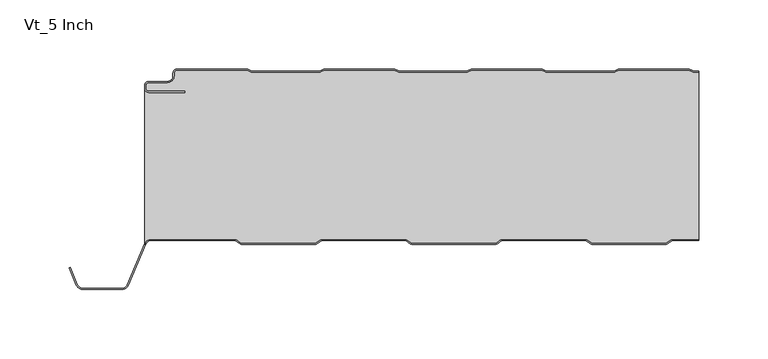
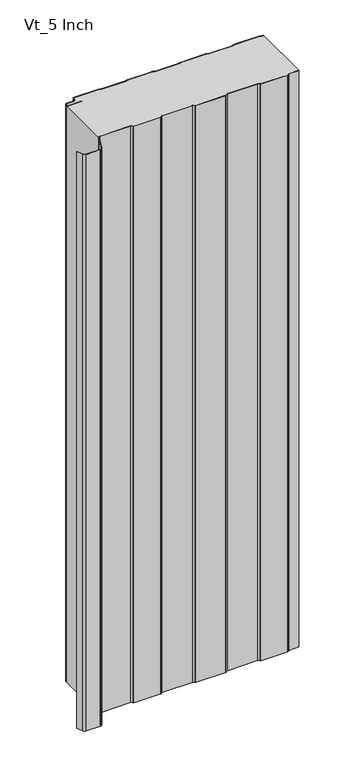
"""IFC4 building model written with IfcOpenShell, lengths in millimetres: plate geometry, AWIP_R18_CP_HR3_Vt_Roof Panel : Vt_5 Inch."""

from ifc_helpers import new_model, si_unit, point, frame, frame_2d, origin, origin_with_axes, place, context, project, spatial, polyline, circle_curve, trimmed, segment, composite_curve, outline, extrude, source, transform, mapped, element, save
from ifc_brep_helpers import plane_surface, cylinder_surface, revolved_surface, advanced_brep


def vt_5_inch_8c37b09e(model_context):
    return source(origin(), model_context, "Body", "SolidModel", [
        extrude(outline(composite_curve([segment(polyline([(212.4037368, -1.5), (215.9042607, -1.5), (215.9042607, -2.3), (212.4037368, -2.3)]), True, "CONTINUOUS"), segment(trimmed(circle_curve(frame_2d((212.4037368, 1.0)), 3.3), [point((212.4037368, -2.3))], [point((211.0949824, -2.0293831))], False, "CARTESIAN"), True, "CONTINUOUS"), segment(polyline([(211.0949824, -2.0293831), (208.7048832, -0.9968123)]), True, "CONTINUOUS"), segment(trimmed(circle_curve(frame_2d((207.7530619, -3.2)), 2.4), [point((208.7048832, -0.9968123))], [point((207.7530619, -0.8))], True, "CARTESIAN"), True, "CONTINUOUS"), segment(polyline([(207.7530619, -0.8), (158.8384168, -0.8)]), True, "CONTINUOUS"), segment(trimmed(circle_curve(frame_2d((158.8384168, -3.2)), 2.4), [point((158.8384168, -0.8))], [point((157.8865954, -0.9968123))], True, "CARTESIAN"), True, "CONTINUOUS"), segment(polyline([(157.8865954, -0.9968123), (155.4964962, -2.0293831)]), True, "CONTINUOUS"), segment(trimmed(circle_curve(frame_2d((154.1877419, 1.0)), 3.3), [point((155.4964962, -2.0293831))], [point((154.1877419, -2.3))], False, "CARTESIAN"), True, "CONTINUOUS"), segment(polyline([(154.1877419, -2.3), (105.8037368, -2.3)]), True, "CONTINUOUS"), segment(trimmed(circle_curve(frame_2d((105.8037368, 1.0)), 3.3), [point((105.8037368, -2.3))], [point((104.4949824, -2.0293831))], False, "CARTESIAN"), True, "CONTINUOUS"), segment(polyline([(104.4949824, -2.0293831), (102.1048832, -0.9968123)]), True, "CONTINUOUS"), segment(trimmed(circle_curve(frame_2d((101.1530619, -3.2)), 2.4), [point((102.1048832, -0.9968123))], [point((101.1530619, -0.8))], True, "CARTESIAN"), True, "CONTINUOUS"), segment(polyline([(101.1530619, -0.8), (52.2384168, -0.8)]), True, "CONTINUOUS"), segment(trimmed(circle_curve(frame_2d((52.2384168, -3.2)), 2.4), [point((52.2384168, -0.8))], [point((51.2865954, -0.9968123))], True, "CARTESIAN"), True, "CONTINUOUS"), segment(polyline([(51.2865954, -0.9968123), (48.8964962, -2.0293831)]), True, "CONTINUOUS"), segment(trimmed(circle_curve(frame_2d((47.5877419, 1.0)), 3.3), [point((48.8964962, -2.0293831))], [point((47.5877419, -2.3))], False, "CARTESIAN"), True, "CONTINUOUS"), segment(polyline([(47.5877419, -2.3), (-0.7962632, -2.3)]), True, "CONTINUOUS"), segment(trimmed(circle_curve(frame_2d((-0.7962632, 1.0)), 3.3), [point((-0.7962632, -2.3))], [point((-2.1050176, -2.0293831))], False, "CARTESIAN"), True, "CONTINUOUS"), segment(polyline([(-2.1050176, -2.0293831), (-4.4951168, -0.9968123)]), True, "CONTINUOUS"), segment(trimmed(circle_curve(frame_2d((-5.4469381, -3.2)), 2.4), [point((-4.4951168, -0.9968123))], [point((-5.4469381, -0.8))], True, "CARTESIAN"), True, "CONTINUOUS"), segment(polyline([(-5.4469381, -0.8), (-54.3615832, -0.8)]), True, "CONTINUOUS"), segment(trimmed(circle_curve(frame_2d((-54.3615832, -3.2)), 2.4), [point((-54.3615832, -0.8))], [point((-55.3134046, -0.9968123))], True, "CARTESIAN"), True, "CONTINUOUS"), segment(polyline([(-55.3134046, -0.9968123), (-57.7035038, -2.0293831)]), True, "CONTINUOUS"), segment(trimmed(circle_curve(frame_2d((-59.0122581, 1.0)), 3.3), [point((-57.7035038, -2.0293831))], [point((-59.0122581, -2.3))], False, "CARTESIAN"), True, "CONTINUOUS"), segment(polyline([(-59.0122581, -2.3), (-107.3962632, -2.3)]), True, "CONTINUOUS"), segment(trimmed(circle_curve(frame_2d((-107.3962632, 1.0)), 3.3), [point((-107.3962632, -2.3))], [point((-108.7050176, -2.0293831))], False, "CARTESIAN"), True, "CONTINUOUS"), segment(polyline([(-108.7050176, -2.0293831), (-111.0951168, -0.9968123)]), True, "CONTINUOUS"), segment(trimmed(circle_curve(frame_2d((-112.0469381, -3.2)), 2.4), [point((-111.0951168, -0.9968123))], [point((-112.0469381, -0.8))], True, "CARTESIAN"), True, "CONTINUOUS"), segment(polyline([(-112.0469381, -0.8), (-161.8042607, -0.8)]), True, "CONTINUOUS"), segment(trimmed(circle_curve(frame_2d((-161.8042607, -3.0)), 2.2), [point((-161.8042607, -0.8))], [point((-164.0042607, -3.0))], True, "CARTESIAN"), True, "CONTINUOUS"), segment(polyline([(-164.0042607, -3.0), (-164.0042607, -5.0)]), True, "CONTINUOUS"), segment(trimmed(circle_curve(frame_2d((-168.8042607, -5.0)), 4.8), [point((-164.0042607, -5.0))], [point((-168.8042607, -9.8))], False, "CARTESIAN"), True, "CONTINUOUS"), segment(polyline([(-168.8042607, -9.8), (-182.3200708, -9.8)]), True, "CONTINUOUS"), segment(trimmed(circle_curve(frame_2d((-182.3200708, -12.0)), 2.2), [point((-182.3200708, -9.8))], [point((-184.5200708, -12.0))], True, "CARTESIAN"), True, "CONTINUOUS"), segment(polyline([(-184.5200708, -12.0), (-184.5200708, -14.0)]), True, "CONTINUOUS"), segment(trimmed(circle_curve(frame_2d((-182.3200708, -14.0)), 2.2), [point((-184.5200708, -14.0))], [point((-182.3200708, -16.2))], True, "CARTESIAN"), True, "CONTINUOUS"), segment(polyline([(-182.3200708, -16.2), (-156.3790289, -16.2), (-156.3790289, -17.0), (-182.3200708, -17.0)]), True, "CONTINUOUS"), segment(trimmed(circle_curve(frame_2d((-182.3200708, -14.0)), 3.0), [point((-182.3200708, -17.0))], [point((-185.3200708, -14.0))], False, "CARTESIAN"), True, "CONTINUOUS"), segment(polyline([(-185.3200708, -14.0), (-185.3200708, -12.0)]), True, "CONTINUOUS"), segment(trimmed(circle_curve(frame_2d((-182.3200708, -12.0)), 3.0), [point((-185.3200708, -12.0))], [point((-182.3200708, -9.0))], False, "CARTESIAN"), True, "CONTINUOUS"), segment(polyline([(-182.3200708, -9.0), (-168.8042607, -9.0)]), True, "CONTINUOUS"), segment(trimmed(circle_curve(frame_2d((-168.8042607, -5.0)), 4.0), [point((-168.8042607, -9.0))], [point((-164.8042607, -5.0))], True, "CARTESIAN"), True, "CONTINUOUS"), segment(polyline([(-164.8042607, -5.0), (-164.8042607, -3.0)]), True, "CONTINUOUS"), segment(trimmed(circle_curve(frame_2d((-161.8042607, -3.0)), 3.0), [point((-164.8042607, -3.0))], [point((-161.8042607, 0.0))], False, "CARTESIAN"), True, "CONTINUOUS"), segment(polyline([(-161.8042607, 0.0), (-112.0469381, 0.0)]), True, "CONTINUOUS"), segment(trimmed(circle_curve(frame_2d((-112.0469381, -3.2)), 3.2), [point((-112.0469381, 0.0))], [point((-110.777843, -0.2624164))], False, "CARTESIAN"), True, "CONTINUOUS"), segment(polyline([(-110.777843, -0.2624164), (-108.3877438, -1.2949872)]), True, "CONTINUOUS"), segment(trimmed(circle_curve(frame_2d((-107.3962632, 1.0)), 2.5), [point((-108.3877438, -1.2949872))], [point((-107.3962632, -1.5))], True, "CARTESIAN"), True, "CONTINUOUS"), segment(polyline([(-107.3962632, -1.5), (-59.0122581, -1.5)]), True, "CONTINUOUS"), segment(trimmed(circle_curve(frame_2d((-59.0122581, 1.0)), 2.5), [point((-59.0122581, -1.5))], [point((-58.0207775, -1.2949872))], True, "CARTESIAN"), True, "CONTINUOUS"), segment(polyline([(-58.0207775, -1.2949872), (-55.6306783, -0.2624164)]), True, "CONTINUOUS"), segment(trimmed(circle_curve(frame_2d((-54.3615832, -3.2)), 3.2), [point((-55.6306783, -0.2624164))], [point((-54.3615832, 0.0))], False, "CARTESIAN"), True, "CONTINUOUS"), segment(polyline([(-54.3615832, 0.0), (-5.4469381, 0.0)]), True, "CONTINUOUS"), segment(trimmed(circle_curve(frame_2d((-5.4469381, -3.2)), 3.2), [point((-5.4469381, 0.0))], [point((-4.177843, -0.2624164))], False, "CARTESIAN"), True, "CONTINUOUS"), segment(polyline([(-4.177843, -0.2624164), (-1.7877438, -1.2949872)]), True, "CONTINUOUS"), segment(trimmed(circle_curve(frame_2d((-0.7962632, 1.0)), 2.5), [point((-1.7877438, -1.2949872))], [point((-0.7962632, -1.5))], True, "CARTESIAN"), True, "CONTINUOUS"), segment(polyline([(-0.7962632, -1.5), (47.5877419, -1.5)]), True, "CONTINUOUS"), segment(trimmed(circle_curve(frame_2d((47.5877419, 1.0)), 2.5), [point((47.5877419, -1.5))], [point((48.5792225, -1.2949872))], True, "CARTESIAN"), True, "CONTINUOUS"), segment(polyline([(48.5792225, -1.2949872), (50.9693217, -0.2624164)]), True, "CONTINUOUS"), segment(trimmed(circle_curve(frame_2d((52.2384168, -3.2)), 3.2), [point((50.9693217, -0.2624164))], [point((52.2384168, 0.0))], False, "CARTESIAN"), True, "CONTINUOUS"), segment(polyline([(52.2384168, 0.0), (101.1530619, 0.0)]), True, "CONTINUOUS"), segment(trimmed(circle_curve(frame_2d((101.1530619, -3.2)), 3.2), [point((101.1530619, 0.0))], [point((102.422157, -0.2624164))], False, "CARTESIAN"), True, "CONTINUOUS"), segment(polyline([(102.422157, -0.2624164), (104.8122562, -1.2949872)]), True, "CONTINUOUS"), segment(trimmed(circle_curve(frame_2d((105.8037368, 1.0)), 2.5), [point((104.8122562, -1.2949872))], [point((105.8037368, -1.5))], True, "CARTESIAN"), True, "CONTINUOUS"), segment(polyline([(105.8037368, -1.5), (154.1877419, -1.5)]), True, "CONTINUOUS"), segment(trimmed(circle_curve(frame_2d((154.1877419, 1.0)), 2.5), [point((154.1877419, -1.5))], [point((155.1792225, -1.2949872))], True, "CARTESIAN"), True, "CONTINUOUS"), segment(polyline([(155.1792225, -1.2949872), (157.5693217, -0.2624164)]), True, "CONTINUOUS"), segment(trimmed(circle_curve(frame_2d((158.8384168, -3.2)), 3.2), [point((157.5693217, -0.2624164))], [point((158.8384168, 0.0))], False, "CARTESIAN"), True, "CONTINUOUS"), segment(polyline([(158.8384168, 0.0), (207.7530619, 0.0)]), True, "CONTINUOUS"), segment(trimmed(circle_curve(frame_2d((207.7530619, -3.2)), 3.2), [point((207.7530619, 0.0))], [point((209.022157, -0.2624164))], False, "CARTESIAN"), True, "CONTINUOUS"), segment(polyline([(209.022157, -0.2624164), (211.4122562, -1.2949872)]), True, "CONTINUOUS"), segment(trimmed(circle_curve(frame_2d((212.4037368, 1.0)), 2.5), [point((211.4122562, -1.2949872))], [point((212.4037368, -1.5))], True, "CARTESIAN"), True, "CONTINUOUS")], self_intersect=False)), origin_with_axes(), (0.0, 0.0, 1.0), 1219.2),
        advanced_brep(
        [(196.6223362, -123.4158806, 0.0), (215.9042607, -123.4158806, 0.0), (215.9042607, -123.4158806, 1219.2), (196.6223362, -123.4158806, 1219.2), (195.8609464, -123.6621797, 1219.2), (195.8609464, -123.6621797, 0.0), (192.3488119, -126.2000001, 1219.2), (192.3488119, -126.2000001, 0.0), (138.1459308, -126.2000001, 1219.2), (138.1459308, -126.2000001, 0.0), (134.6337968, -123.6621798, 1219.2), (134.6337968, -123.6621798, 0.0), (133.8724069, -123.4158806, 1219.2), (133.8724069, -123.4158806, 0.0), (73.3762764, -123.4158806, 1219.2), (73.3762764, -123.4158806, 0.0), (72.6148867, -123.6621797, 1219.2), (72.6148867, -123.6621797, 0.0), (69.1027521, -126.2000001, 1219.2), (69.1027521, -126.2000001, 0.0), (7.6420063, -126.2000001, 1219.2), (7.6420063, -126.2000001, 0.0), (4.1298717, -123.6621797, 1219.2), (4.1298717, -123.6621797, 0.0), (3.3684818, -123.4158805, 1219.2), (3.3684818, -123.4158805, 0.0), (-57.1276444, -123.4158805, 1219.2), (-57.1276444, -123.4158805, 0.0), (-57.8890342, -123.6621797, 1219.2), (-57.8890342, -123.6621797, 0.0), (-61.4011687, -126.2, 1219.2), (-61.4011687, -126.2, 0.0), (-115.604049, -126.2, 1219.2), (-115.604049, -126.2, 0.0), (-119.1161836, -123.6621797, 1219.2), (-119.1161836, -123.6621797, 0.0), (-119.8775734, -123.4158805, 1219.2), (-119.8775734, -123.4158805, 0.0), (-180.6614903, -123.4158805, 1219.2), (-180.6614903, -123.4158805, 0.0), (215.9042607, -2.3, 1219.2), (212.4037368, -2.3, 1219.2), (211.0949824, -2.0293831, 1219.2), (208.7048832, -0.9968123, 1219.2), (207.7530619, -0.8, 1219.2), (158.8384168, -0.8, 1219.2), (157.8865954, -0.9968123, 1219.2), (155.4964962, -2.0293831, 1219.2), (154.1877419, -2.3, 1219.2), (105.8037368, -2.3, 1219.2), (104.4949824, -2.0293831, 1219.2), (102.1048832, -0.9968123, 1219.2), (101.1530619, -0.8, 1219.2), (52.2384168, -0.8, 1219.2), (51.2865954, -0.9968123, 1219.2), (48.8964962, -2.0293831, 1219.2), (47.5877419, -2.3, 1219.2), (-0.7962632, -2.3, 1219.2), (-2.1050176, -2.0293831, 1219.2), (-4.4951168, -0.9968123, 1219.2), (-5.4469381, -0.8, 1219.2), (-54.3615832, -0.8, 1219.2), (-55.3134046, -0.9968123, 1219.2), (-57.7035038, -2.0293831, 1219.2), (-59.0122581, -2.3, 1219.2), (-107.3962632, -2.3, 1219.2), (-108.7050176, -2.0293831, 1219.2), (-111.0951168, -0.9968123, 1219.2), (-112.0469381, -0.8, 1219.2), (-161.8042607, -0.8, 1219.2), (-164.0042607, -3.0, 1219.2), (-164.0042607, -5.0, 1219.2), (-168.8042607, -9.8, 1219.2), (-182.3200708, -9.8, 1219.2), (-184.5200708, -12.0, 1219.2), (-184.5200708, -14.0, 1219.2), (-182.3200708, -16.2, 1219.2), (-156.3790289, -16.2, 1219.2), (-156.3790289, -17.0, 1219.2), (-182.3200708, -17.0, 1219.2), (-185.3200708, -14.0, 1219.2), (-185.3370174, -127.1298575, 1219.2), (212.4037368, -2.3, 0.0), (211.0949824, -2.0293831, 0.0), (-185.3370174, -127.1298575, 0.0), (102.1048832, -0.9968123, 0.0), (101.1530619, -0.8, 0.0), (104.4949824, -2.0293831, 0.0), (105.8037368, -2.3, 0.0), (154.1877419, -2.3, 0.0), (155.4964962, -2.0293831, 0.0), (157.8865954, -0.9968123, 0.0), (158.8384168, -0.8, 0.0), (207.7530619, -0.8, 0.0), (208.7048832, -0.9968123, 0.0), (-185.3370174, -14.0, 0.0), (-182.3200708, -17.0, 0.0), (-156.3790289, -17.0, 0.0), (-156.3790289, -16.2, 0.0), (-182.3200708, -16.2, 0.0), (-184.5200708, -14.0, 0.0), (-184.5200708, -12.0, 0.0), (-182.3200708, -9.8, 0.0), (-168.8042607, -9.8, 0.0), (-164.0042607, -5.0, 0.0), (-164.0042607, -3.0, 0.0), (-161.8042607, -0.8, 0.0), (-112.0469381, -0.8, 0.0), (-111.0951168, -0.9968123, 0.0), (-108.7050176, -2.0293831, 0.0), (-107.3962632, -2.3, 0.0), (-59.0122581, -2.3, 0.0), (-57.7035038, -2.0293831, 0.0), (-55.3134046, -0.9968123, 0.0), (-54.3615832, -0.8, 0.0), (-5.4469381, -0.8, 0.0), (-4.4951168, -0.9968123, 0.0), (-2.1050176, -2.0293831, 0.0), (-0.7962632, -2.3, 0.0), (47.5877419, -2.3, 0.0), (48.8964962, -2.0293831, 0.0), (51.2865954, -0.9968123, 0.0), (52.2384168, -0.8, 0.0), (215.9042607, -2.3, 0.0)],
        [
            (0, 1),
            (1, 2),
            (2, 3),
            (3, 0),
            (4, 5),
            (5, 0, circle_curve(frame((196.6223362, -124.7158806, 0.0), z_axis=(0.0, 0.0, -1.0), x_axis=(0.0, -1.0, 0.0)), 1.3)),
            (3, 4, circle_curve(frame((196.6223362, -124.7158806, 1219.2), z_axis=(0.0, 0.0, 1.0), x_axis=(0.0, -1.0, 0.0)), 1.3)),
            (6, 7),
            (7, 5),
            (4, 6),
            (8, 9),
            (9, 7),
            (6, 8),
            (10, 11),
            (11, 9),
            (8, 10),
            (12, 13),
            (13, 11, circle_curve(frame((133.8724069, -124.7158806, 0.0), z_axis=(0.0, 0.0, -1.0), x_axis=(0.0, -1.0, 0.0)), 1.3)),
            (10, 12, circle_curve(frame((133.8724069, -124.7158806, 1219.2), z_axis=(0.0, 0.0, 1.0), x_axis=(0.0, -1.0, 0.0)), 1.3)),
            (14, 15),
            (15, 13),
            (12, 14),
            (16, 17),
            (17, 15, circle_curve(frame((73.3762764, -124.7158804, 0.0), z_axis=(0.0, 0.0, -1.0), x_axis=(0.0, -1.0, 0.0)), 1.2999998)),
            (14, 16, circle_curve(frame((73.3762764, -124.7158804, 1219.2), z_axis=(0.0, 0.0, 1.0), x_axis=(0.0, -1.0, 0.0)), 1.2999998)),
            (18, 19),
            (19, 17),
            (16, 18),
            (20, 21),
            (21, 19),
            (18, 20),
            (22, 23),
            (23, 21),
            (20, 22),
            (24, 25),
            (25, 23, circle_curve(frame((3.3684818, -124.7158805, 0.0), z_axis=(0.0, 0.0, -1.0), x_axis=(0.0, -1.0, 0.0)), 1.3)),
            (22, 24, circle_curve(frame((3.3684818, -124.7158805, 1219.2), z_axis=(0.0, 0.0, 1.0), x_axis=(0.0, -1.0, 0.0)), 1.3)),
            (26, 27),
            (27, 25),
            (24, 26),
            (28, 29),
            (29, 27, circle_curve(frame((-57.1276444, -124.7158805, 0.0), z_axis=(0.0, 0.0, -1.0), x_axis=(0.0, -1.0, 0.0)), 1.3)),
            (26, 28, circle_curve(frame((-57.1276444, -124.7158805, 1219.2), z_axis=(0.0, 0.0, 1.0), x_axis=(0.0, -1.0, 0.0)), 1.3)),
            (30, 31),
            (31, 29),
            (28, 30),
            (32, 33),
            (33, 31),
            (30, 32),
            (34, 35),
            (35, 33),
            (32, 34),
            (36, 37),
            (37, 35, circle_curve(frame((-119.8775734, -124.7158805, 0.0), z_axis=(0.0, 0.0, -1.0), x_axis=(0.0, -1.0, 0.0)), 1.3)),
            (34, 36, circle_curve(frame((-119.8775734, -124.7158805, 1219.2), z_axis=(0.0, 0.0, 1.0), x_axis=(0.0, -1.0, 0.0)), 1.3)),
            (38, 39),
            (39, 37),
            (36, 38),
            (2, 40),
            (40, 41),
            (41, 42, circle_curve(frame((212.4037368, 1.0, 1219.2), z_axis=(0.0, 0.0, -1.0), x_axis=(0.0, -1.0, 0.0)), 3.3)),
            (42, 43),
            (43, 44, circle_curve(frame((207.7530619, -3.2, 1219.2), z_axis=(0.0, 0.0, 1.0), x_axis=(0.0, -1.0, 0.0)), 2.4)),
            (44, 45),
            (45, 46, circle_curve(frame((158.8384168, -3.2, 1219.2), z_axis=(0.0, 0.0, 1.0), x_axis=(0.0, -1.0, 0.0)), 2.4)),
            (46, 47),
            (47, 48, circle_curve(frame((154.1877419, 1.0, 1219.2), z_axis=(0.0, 0.0, -1.0), x_axis=(0.0, -1.0, 0.0)), 3.3)),
            (48, 49),
            (49, 50, circle_curve(frame((105.8037368, 1.0, 1219.2), z_axis=(0.0, 0.0, -1.0), x_axis=(0.0, -1.0, 0.0)), 3.3)),
            (50, 51),
            (51, 52, circle_curve(frame((101.1530619, -3.2, 1219.2), z_axis=(0.0, 0.0, 1.0), x_axis=(0.0, -1.0, 0.0)), 2.4)),
            (52, 53),
            (53, 54, circle_curve(frame((52.2384168, -3.2, 1219.2), z_axis=(0.0, 0.0, 1.0), x_axis=(0.0, -1.0, 0.0)), 2.4)),
            (54, 55),
            (55, 56, circle_curve(frame((47.5877419, 1.0, 1219.2), z_axis=(0.0, 0.0, -1.0), x_axis=(0.0, -1.0, 0.0)), 3.3)),
            (56, 57),
            (57, 58, circle_curve(frame((-0.7962632, 1.0, 1219.2), z_axis=(0.0, 0.0, -1.0), x_axis=(0.0, -1.0, 0.0)), 3.3)),
            (58, 59),
            (59, 60, circle_curve(frame((-5.4469381, -3.2, 1219.2), z_axis=(0.0, 0.0, 1.0), x_axis=(0.0, -1.0, 0.0)), 2.4)),
            (60, 61),
            (61, 62, circle_curve(frame((-54.3615832, -3.2, 1219.2), z_axis=(0.0, 0.0, 1.0), x_axis=(0.0, -1.0, 0.0)), 2.4)),
            (62, 63),
            (63, 64, circle_curve(frame((-59.0122581, 1.0, 1219.2), z_axis=(0.0, 0.0, -1.0), x_axis=(0.0, -1.0, 0.0)), 3.3)),
            (64, 65),
            (65, 66, circle_curve(frame((-107.3962632, 1.0, 1219.2), z_axis=(0.0, 0.0, -1.0), x_axis=(0.0, -1.0, 0.0)), 3.3)),
            (66, 67),
            (67, 68, circle_curve(frame((-112.0469381, -3.2, 1219.2), z_axis=(0.0, 0.0, 1.0), x_axis=(0.0, -1.0, 0.0)), 2.4)),
            (68, 69),
            (69, 70, circle_curve(frame((-161.8042607, -3.0, 1219.2), z_axis=(0.0, 0.0, 1.0), x_axis=(0.0, -1.0, 0.0)), 2.2)),
            (70, 71),
            (71, 72, circle_curve(frame((-168.8042607, -5.0, 1219.2), z_axis=(0.0, 0.0, -1.0), x_axis=(0.0, -1.0, 0.0)), 4.8)),
            (72, 73),
            (73, 74, circle_curve(frame((-182.3200708, -12.0, 1219.2), z_axis=(0.0, 0.0, 1.0), x_axis=(0.0, -1.0, 0.0)), 2.2)),
            (74, 75),
            (75, 76, circle_curve(frame((-182.3200708, -14.0, 1219.2), z_axis=(0.0, 0.0, 1.0), x_axis=(0.0, -1.0, 0.0)), 2.2)),
            (76, 77),
            (77, 78),
            (78, 79),
            (79, 80, circle_curve(frame((-182.3200708, -14.0, 1219.2), z_axis=(0.0, 0.0, -1.0), x_axis=(0.0, -1.0, 0.0)), 3.0)),
            (80, 81),
            (81, 38, circle_curve(frame((-180.6614903, -128.2158804, 1219.2), z_axis=(0.0, 0.0, -1.0), x_axis=(0.0, -1.0, 0.0)), 4.7999999)),
            (41, 82),
            (82, 83, circle_curve(frame((212.4037368, 1.0, 0.0), z_axis=(0.0, 0.0, -1.0), x_axis=(0.0, -1.0, 0.0)), 3.3)),
            (83, 42),
            (81, 84),
            (84, 39, circle_curve(frame((-180.6614903, -128.2158804, 0.0), z_axis=(0.0, 0.0, -1.0), x_axis=(0.0, -1.0, 0.0)), 4.7999999)),
            (51, 85),
            (85, 86, circle_curve(frame((101.1530619, -3.2, 0.0), z_axis=(0.0, 0.0, 1.0), x_axis=(0.0, -1.0, 0.0)), 2.4)),
            (86, 52),
            (50, 87),
            (87, 85),
            (49, 88),
            (88, 87, circle_curve(frame((105.8037368, 1.0, 0.0), z_axis=(0.0, 0.0, -1.0), x_axis=(0.0, -1.0, 0.0)), 3.3)),
            (48, 89),
            (89, 88),
            (47, 90),
            (90, 89, circle_curve(frame((154.1877419, 1.0, 0.0), z_axis=(0.0, 0.0, -1.0), x_axis=(0.0, -1.0, 0.0)), 3.3)),
            (46, 91),
            (91, 90),
            (45, 92),
            (92, 91, circle_curve(frame((158.8384168, -3.2, 0.0), z_axis=(0.0, 0.0, 1.0), x_axis=(0.0, -1.0, 0.0)), 2.4)),
            (44, 93),
            (93, 92),
            (43, 94),
            (94, 93, circle_curve(frame((207.7530619, -3.2, 0.0), z_axis=(0.0, 0.0, 1.0), x_axis=(0.0, -1.0, 0.0)), 2.4)),
            (83, 94),
            (84, 95),
            (95, 96, circle_curve(frame((-182.3200708, -14.0, 0.0), z_axis=(0.0, 0.0, 1.0), x_axis=(0.0, -1.0, 0.0)), 3.0)),
            (96, 97),
            (97, 98),
            (98, 99),
            (99, 100, circle_curve(frame((-182.3200708, -14.0, 0.0), z_axis=(0.0, 0.0, -1.0), x_axis=(0.0, -1.0, 0.0)), 2.2)),
            (100, 101),
            (101, 102, circle_curve(frame((-182.3200708, -12.0, 0.0), z_axis=(0.0, 0.0, -1.0), x_axis=(0.0, -1.0, 0.0)), 2.2)),
            (102, 103),
            (103, 104, circle_curve(frame((-168.8042607, -5.0, 0.0), z_axis=(0.0, 0.0, 1.0), x_axis=(0.0, -1.0, 0.0)), 4.8)),
            (104, 105),
            (105, 106, circle_curve(frame((-161.8042607, -3.0, 0.0), z_axis=(0.0, 0.0, -1.0), x_axis=(0.0, -1.0, 0.0)), 2.2)),
            (106, 107),
            (107, 108, circle_curve(frame((-112.0469381, -3.2, 0.0), z_axis=(0.0, 0.0, -1.0), x_axis=(0.0, -1.0, 0.0)), 2.4)),
            (108, 109),
            (109, 110, circle_curve(frame((-107.3962632, 1.0, 0.0), z_axis=(0.0, 0.0, 1.0), x_axis=(0.0, -1.0, 0.0)), 3.3)),
            (110, 111),
            (111, 112, circle_curve(frame((-59.0122581, 1.0, 0.0), z_axis=(0.0, 0.0, 1.0), x_axis=(0.0, -1.0, 0.0)), 3.3)),
            (112, 113),
            (113, 114, circle_curve(frame((-54.3615832, -3.2, 0.0), z_axis=(0.0, 0.0, -1.0), x_axis=(0.0, -1.0, 0.0)), 2.4)),
            (114, 115),
            (115, 116, circle_curve(frame((-5.4469381, -3.2, 0.0), z_axis=(0.0, 0.0, -1.0), x_axis=(0.0, -1.0, 0.0)), 2.4)),
            (116, 117),
            (117, 118, circle_curve(frame((-0.7962632, 1.0, 0.0), z_axis=(0.0, 0.0, 1.0), x_axis=(0.0, -1.0, 0.0)), 3.3)),
            (118, 119),
            (119, 120, circle_curve(frame((47.5877419, 1.0, 0.0), z_axis=(0.0, 0.0, 1.0), x_axis=(0.0, -1.0, 0.0)), 3.3)),
            (120, 121),
            (121, 122, circle_curve(frame((52.2384168, -3.2, 0.0), z_axis=(0.0, 0.0, -1.0), x_axis=(0.0, -1.0, 0.0)), 2.4)),
            (122, 86),
            (82, 123),
            (123, 1),
            (123, 40),
            (80, 95),
            (79, 96),
            (78, 97),
            (77, 98),
            (76, 99),
            (75, 100),
            (74, 101),
            (73, 102),
            (72, 103),
            (71, 104),
            (70, 105),
            (69, 106),
            (68, 107),
            (67, 108),
            (66, 109),
            (65, 110),
            (64, 111),
            (63, 112),
            (62, 113),
            (61, 114),
            (60, 115),
            (59, 116),
            (58, 117),
            (57, 118),
            (56, 119),
            (55, 120),
            (54, 121),
            (53, 122),
        ],
        [
            plane_surface(frame((257.1184818, -123.4158806, 1219.2), z_axis=(0.0, -1.0, 0.0), x_axis=(0.0, 0.0, -1.0))),
            revolved_surface(polyline([(196.6223362, -126.0158806, 0.0), (196.6223362, -126.0158806, 1219.2)]), (196.6223362, -124.7158806, 1219.2), (0.0, 0.0, -1.0)),
            plane_surface(frame((195.8609464, -123.6621797, 1219.2), z_axis=(0.5856844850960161, -0.8105391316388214, 0.0), x_axis=(0.0, 0.0, -1.0))),
            plane_surface(frame((192.3488119, -126.2000001, 1219.2), z_axis=(0.0, -1.0, 0.0), x_axis=(0.0, 0.0, -1.0))),
            plane_surface(frame((138.1459308, -126.2000001, 1219.2), z_axis=(-0.585684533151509, -0.8105390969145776, 0.0), x_axis=(0.0, 0.0, -1.0))),
            revolved_surface(polyline([(133.8724069, -126.0158806, 0.0), (133.8724069, -126.0158806, 1219.2)]), (133.8724069, -124.7158806, 1219.2), (0.0, 0.0, -1.0)),
            plane_surface(frame((133.8724069, -123.4158806, 1219.2), z_axis=(0.0, -1.0, 0.0), x_axis=(0.0, 0.0, -1.0))),
            revolved_surface(polyline([(73.3762764, -126.0158802, 0.0), (73.3762764, -126.0158802, 1219.2)]), (73.3762764, -124.7158804, 1219.2), (0.0, 0.0, -1.0)),
            plane_surface(frame((72.6148867, -123.6621797, 1219.2), z_axis=(0.5856844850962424, -0.8105391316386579, 0.0), x_axis=(0.0, 0.0, -1.0))),
            plane_surface(frame((69.1027521, -126.2000001, 1219.2), z_axis=(0.0, -1.0, 0.0), x_axis=(0.0, 0.0, -1.0))),
            plane_surface(frame((7.6420063, -126.2000001, 1219.2), z_axis=(-0.5856844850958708, -0.8105391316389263, 0.0), x_axis=(0.0, 0.0, -1.0))),
            revolved_surface(polyline([(3.3684818, -126.0158805, 0.0), (3.3684818, -126.0158805, 1219.2)]), (3.3684818, -124.7158805, 1219.2), (0.0, 0.0, -1.0)),
            plane_surface(frame((3.3684818, -123.4158805, 1219.2), z_axis=(0.0, -1.0, 0.0), x_axis=(0.0, 0.0, -1.0))),
            revolved_surface(polyline([(-57.1276444, -126.0158805, 0.0), (-57.1276444, -126.0158805, 1219.2)]), (-57.1276444, -124.7158805, 1219.2), (0.0, 0.0, -1.0)),
            plane_surface(frame((-57.8890342, -123.6621797, 1219.2), z_axis=(0.5856844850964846, -0.8105391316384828, 0.0), x_axis=(0.0, 0.0, -1.0))),
            plane_surface(frame((-61.4011687, -126.2, 1219.2), z_axis=(0.0, -1.0, 0.0), x_axis=(0.0, 0.0, -1.0))),
            plane_surface(frame((-115.604049, -126.2, 1219.2), z_axis=(-0.5856844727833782, -0.8105391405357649, 0.0), x_axis=(0.0, 0.0, -1.0))),
            revolved_surface(polyline([(-119.8775734, -126.0158805, 0.0), (-119.8775734, -126.0158805, 1219.2)]), (-119.8775734, -124.7158805, 1219.2), (0.0, 0.0, -1.0)),
            plane_surface(frame((-119.8775734, -123.4158805, 1219.2), z_axis=(0.0, -1.0, 0.0), x_axis=(0.0, 0.0, -1.0))),
            plane_surface(frame((292.0957393, -0.8, 1219.2), z_axis=(0.0, 0.0, 1.0), x_axis=(0.0, -1.0, 0.0))),
            revolved_surface(polyline([(212.4037368, -2.3, 0.0), (212.4037368, -2.3, 1219.2)]), (212.4037368, 1.0, 1219.2), (0.0, 0.0, -1.0)),
            revolved_surface(polyline([(-180.6614903, -133.0158803, 0.0), (-180.6614903, -133.0158803, 1219.2)]), (-180.6614903, -128.2158804, 1219.2), (0.0, 0.0, -1.0)),
            cylinder_surface(frame((101.1530619, -3.2, 1219.2), z_axis=(0.0, 0.0, 1.0), x_axis=(0.0, -1.0, 0.0)), 2.4),
            plane_surface(frame((102.1048832, -0.9968123, 1219.2), z_axis=(0.3965922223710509, 0.9179948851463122, 0.0), x_axis=(0.0, 0.0, -1.0))),
            revolved_surface(polyline([(105.8037368, -2.3, 0.0), (105.8037368, -2.3, 1219.2)]), (105.8037368, 1.0, 1219.2), (0.0, 0.0, -1.0)),
            plane_surface(frame((105.8037368, -2.3, 1219.2), z_axis=(0.0, 1.0, 0.0), x_axis=(0.0, 0.0, -1.0))),
            revolved_surface(polyline([(154.1877419, -2.3, 0.0), (154.1877419, -2.3, 1219.2)]), (154.1877419, 1.0, 1219.2), (0.0, 0.0, -1.0)),
            plane_surface(frame((155.4964962, -2.0293831, 1219.2), z_axis=(-0.39659222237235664, 0.9179948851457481, 0.0), x_axis=(0.0, 0.0, -1.0))),
            cylinder_surface(frame((158.8384168, -3.2, 1219.2), z_axis=(0.0, 0.0, 1.0), x_axis=(0.0, -1.0, 0.0)), 2.4),
            plane_surface(frame((158.8384168, -0.8, 1219.2), z_axis=(0.0, 1.0, 0.0), x_axis=(0.0, 0.0, -1.0))),
            cylinder_surface(frame((207.7530619, -3.2, 1219.2), z_axis=(0.0, 0.0, 1.0), x_axis=(0.0, -1.0, 0.0)), 2.4),
            plane_surface(frame((208.7048832, -0.9968123, 1219.2), z_axis=(0.39659222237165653, 0.9179948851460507, 0.0), x_axis=(0.0, 0.0, -1.0))),
            plane_surface(frame((292.0957393, -0.8, 0.0), z_axis=(0.0, 0.0, -1.0), x_axis=(0.0, -1.0, 0.0))),
            plane_surface(frame((215.9042607, -192.0, 1219.2), z_axis=(1.0, 0.0, 0.0), x_axis=(0.0, 0.0, -1.0))),
            plane_surface(frame((-185.3370174, -127.1298575, 1219.2), z_axis=(-1.0, 0.0, 0.0), x_axis=(0.0, 0.0, -1.0))),
            revolved_surface(polyline([(-182.3200708, -17.0, 0.0), (-182.3200708, -17.0, 1219.2)]), (-182.3200708, -14.0, 1219.2), (0.0, 0.0, -1.0)),
            plane_surface(frame((-182.3200708, -17.0, 1219.2), z_axis=(0.0, 1.0, 0.0), x_axis=(0.0, 0.0, -1.0))),
            plane_surface(frame((-156.3790289, -17.0, 1219.2), z_axis=(-1.0, 0.0, 0.0), x_axis=(0.0, 0.0, -1.0))),
            plane_surface(frame((-156.3790289, -16.2, 1219.2), z_axis=(0.0, -1.0, 0.0), x_axis=(0.0, 0.0, -1.0))),
            cylinder_surface(frame((-182.3200708, -14.0, 1219.2), z_axis=(0.0, 0.0, 1.0), x_axis=(0.0, -1.0, 0.0)), 2.2),
            plane_surface(frame((-184.5200708, -14.0, 1219.2), z_axis=(-1.0, 0.0, 0.0), x_axis=(0.0, 0.0, -1.0))),
            cylinder_surface(frame((-182.3200708, -12.0, 1219.2), z_axis=(0.0, 0.0, 1.0), x_axis=(0.0, -1.0, 0.0)), 2.2),
            plane_surface(frame((-182.3200708, -9.8, 1219.2), z_axis=(0.0, 1.0, 0.0), x_axis=(0.0, 0.0, -1.0))),
            revolved_surface(polyline([(-168.8042607, -9.8, 0.0), (-168.8042607, -9.8, 1219.2)]), (-168.8042607, -5.0, 1219.2), (0.0, 0.0, -1.0)),
            plane_surface(frame((-164.0042607, -5.0, 1219.2), z_axis=(-1.0, 0.0, 0.0), x_axis=(0.0, 0.0, -1.0))),
            cylinder_surface(frame((-161.8042607, -3.0, 1219.2), z_axis=(0.0, 0.0, 1.0), x_axis=(0.0, -1.0, 0.0)), 2.2),
            plane_surface(frame((-161.8042607, -0.8, 1219.2), z_axis=(0.0, 1.0, 0.0), x_axis=(0.0, 0.0, -1.0))),
            cylinder_surface(frame((-112.0469381, -3.2, 1219.2), z_axis=(0.0, 0.0, 1.0), x_axis=(0.0, -1.0, 0.0)), 2.4),
            plane_surface(frame((-111.0951168, -0.9968123, 1219.2), z_axis=(0.39659222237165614, 0.9179948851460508, 0.0), x_axis=(0.0, 0.0, -1.0))),
            revolved_surface(polyline([(-107.3962632, -2.3, 0.0), (-107.3962632, -2.3, 1219.2)]), (-107.3962632, 1.0, 1219.2), (0.0, 0.0, -1.0)),
            plane_surface(frame((-107.3962632, -2.3, 1219.2), z_axis=(0.0, 1.0, 0.0), x_axis=(0.0, 0.0, -1.0))),
            revolved_surface(polyline([(-59.0122581, -2.3, 0.0), (-59.0122581, -2.3, 1219.2)]), (-59.0122581, 1.0, 1219.2), (0.0, 0.0, -1.0)),
            plane_surface(frame((-57.7035038, -2.0293831, 1219.2), z_axis=(-0.396592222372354, 0.9179948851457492, 0.0), x_axis=(0.0, 0.0, -1.0))),
            cylinder_surface(frame((-54.3615832, -3.2, 1219.2), z_axis=(0.0, 0.0, 1.0), x_axis=(0.0, -1.0, 0.0)), 2.4),
            plane_surface(frame((-54.3615832, -0.8, 1219.2), z_axis=(0.0, 1.0, 0.0), x_axis=(0.0, 0.0, -1.0))),
            cylinder_surface(frame((-5.4469381, -3.2, 1219.2), z_axis=(0.0, 0.0, 1.0), x_axis=(0.0, -1.0, 0.0)), 2.4),
            plane_surface(frame((-4.4951168, -0.9968123, 1219.2), z_axis=(0.39659222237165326, 0.9179948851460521, 0.0), x_axis=(0.0, 0.0, -1.0))),
            revolved_surface(polyline([(-0.7962632, -2.3, 0.0), (-0.7962632, -2.3, 1219.2)]), (-0.7962632, 1.0, 1219.2), (0.0, 0.0, -1.0)),
            plane_surface(frame((-0.7962632, -2.3, 1219.2), z_axis=(0.0, 1.0, 0.0), x_axis=(0.0, 0.0, -1.0))),
            revolved_surface(polyline([(47.5877419, -2.3, 0.0), (47.5877419, -2.3, 1219.2)]), (47.5877419, 1.0, 1219.2), (0.0, 0.0, -1.0)),
            plane_surface(frame((48.8964962, -2.0293831, 1219.2), z_axis=(-0.39659222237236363, 0.9179948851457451, 0.0), x_axis=(0.0, 0.0, -1.0))),
            cylinder_surface(frame((52.2384168, -3.2, 1219.2), z_axis=(0.0, 0.0, 1.0), x_axis=(0.0, -1.0, 0.0)), 2.4),
            plane_surface(frame((52.2384168, -0.8, 1219.2), z_axis=(0.0, 1.0, 0.0), x_axis=(0.0, 0.0, -1.0))),
            plane_surface(frame((212.4037368, -2.3, 1219.2), z_axis=(0.0, 1.0, 0.0), x_axis=(0.0, 0.0, -1.0))),
        ],
        [
            (0, [[1, 2, 3, 4]]),
            (1, [[5, 6, -4, 7]]),
            (2, [[8, 9, -5, 10]]),
            (3, [[11, 12, -8, 13]]),
            (4, [[14, 15, -11, 16]]),
            (5, [[17, 18, -14, 19]]),
            (6, [[20, 21, -17, 22]]),
            (7, [[23, 24, -20, 25]]),
            (8, [[26, 27, -23, 28]]),
            (9, [[29, 30, -26, 31]]),
            (10, [[32, 33, -29, 34]]),
            (11, [[35, 36, -32, 37]]),
            (12, [[38, 39, -35, 40]]),
            (13, [[41, 42, -38, 43]]),
            (14, [[44, 45, -41, 46]]),
            (15, [[47, 48, -44, 49]]),
            (16, [[50, 51, -47, 52]]),
            (17, [[53, 54, -50, 55]]),
            (18, [[56, 57, -53, 58]]),
            (19, [[-58, -55, -52, -49, -46, -43, -40, -37, -34, -31, -28, -25, -22, -19, -16, -13, -10, -7, -3, 59, 60, 61, 62, 63, 64, 65, 66, 67, 68, 69, 70, 71, 72, 73, 74, 75, 76, 77, 78, 79, 80, 81, 82, 83, 84, 85, 86, 87, 88, 89, 90, 91, 92, 93, 94, 95, 96, 97, 98, 99, 100, 101]]),
            (20, [[102, 103, 104, -61]]),
            (21, [[105, 106, -56, -101]]),
            (22, [[107, 108, 109, -71]]),
            (23, [[110, 111, -107, -70]]),
            (24, [[112, 113, -110, -69]]),
            (25, [[114, 115, -112, -68]]),
            (26, [[116, 117, -114, -67]]),
            (27, [[118, 119, -116, -66]]),
            (28, [[120, 121, -118, -65]]),
            (29, [[122, 123, -120, -64]]),
            (30, [[124, 125, -122, -63]]),
            (31, [[-104, 126, -124, -62]]),
            (32, [[-106, 127, 128, 129, 130, 131, 132, 133, 134, 135, 136, 137, 138, 139, 140, 141, 142, 143, 144, 145, 146, 147, 148, 149, 150, 151, 152, 153, 154, 155, -108, -111, -113, -115, -117, -119, -121, -123, -125, -126, -103, 156, 157, -1, -6, -9, -12, -15, -18, -21, -24, -27, -30, -33, -36, -39, -42, -45, -48, -51, -54, -57]]),
            (33, [[-2, -157, 158, -59]]),
            (34, [[159, -127, -105, -100]]),
            (35, [[160, -128, -159, -99]]),
            (36, [[161, -129, -160, -98]]),
            (37, [[162, -130, -161, -97]]),
            (38, [[163, -131, -162, -96]]),
            (39, [[164, -132, -163, -95]]),
            (40, [[165, -133, -164, -94]]),
            (41, [[166, -134, -165, -93]]),
            (42, [[167, -135, -166, -92]]),
            (43, [[168, -136, -167, -91]]),
            (44, [[169, -137, -168, -90]]),
            (45, [[170, -138, -169, -89]]),
            (46, [[171, -139, -170, -88]]),
            (47, [[172, -140, -171, -87]]),
            (48, [[173, -141, -172, -86]]),
            (49, [[174, -142, -173, -85]]),
            (50, [[175, -143, -174, -84]]),
            (51, [[176, -144, -175, -83]]),
            (52, [[177, -145, -176, -82]]),
            (53, [[178, -146, -177, -81]]),
            (54, [[179, -147, -178, -80]]),
            (55, [[180, -148, -179, -79]]),
            (56, [[181, -149, -180, -78]]),
            (57, [[182, -150, -181, -77]]),
            (58, [[183, -151, -182, -76]]),
            (59, [[184, -152, -183, -75]]),
            (60, [[185, -153, -184, -74]]),
            (61, [[186, -154, -185, -73]]),
            (62, [[-109, -155, -186, -72]]),
            (63, [[-60, -158, -156, -102]]),
        ],
    ),
        extrude(outline(composite_curve([segment(polyline([(-119.1161836, -123.6621793), (-115.604049, -126.1999997), (-61.4011687, -126.1999997), (-57.8890342, -123.6621793)]), True, "CONTINUOUS"), segment(trimmed(circle_curve(frame_2d((-57.1276444, -124.7158802)), 1.3), [point((-57.8890342, -123.6621793))], [point((-57.1276444, -123.4158802))], False, "CARTESIAN"), True, "CONTINUOUS"), segment(polyline([(-57.1276444, -123.4158802), (3.3684818, -123.4158802)]), True, "CONTINUOUS"), segment(trimmed(circle_curve(frame_2d((3.3684818, -124.7158802)), 1.3), [point((3.3684818, -123.4158802))], [point((4.1298717, -123.6621793))], False, "CARTESIAN"), True, "CONTINUOUS"), segment(polyline([(4.1298717, -123.6621793), (7.6420063, -126.1999997), (69.1027521, -126.1999997), (72.6148867, -123.6621794)]), True, "CONTINUOUS"), segment(trimmed(circle_curve(frame_2d((73.3762764, -124.7158801)), 1.2999998), [point((72.6148867, -123.6621794))], [point((73.3762764, -123.4158803))], False, "CARTESIAN"), True, "CONTINUOUS"), segment(polyline([(73.3762764, -123.4158803), (133.8724069, -123.4158803)]), True, "CONTINUOUS"), segment(trimmed(circle_curve(frame_2d((133.8724069, -124.7158803)), 1.3), [point((133.8724069, -123.4158803))], [point((134.6337968, -123.6621795))], False, "CARTESIAN"), True, "CONTINUOUS"), segment(polyline([(134.6337968, -123.6621795), (138.1459308, -126.1999997), (192.3488119, -126.1999997), (195.8609464, -123.6621794)]), True, "CONTINUOUS"), segment(trimmed(circle_curve(frame_2d((196.6223362, -124.7158803)), 1.3), [point((195.8609464, -123.6621794))], [point((196.6223362, -123.4158803))], False, "CARTESIAN"), True, "CONTINUOUS"), segment(polyline([(196.6223362, -123.4158803), (215.9042607, -123.4158803), (215.9042607, -124.2158801), (196.4605931, -124.2158801), (193.0008983, -126.7158084)]), True, "CONTINUOUS"), segment(trimmed(circle_curve(frame_2d((192.1223715, -125.4999997)), 1.5), [point((193.0008983, -126.7158084))], [point((192.1223715, -126.9999997))], False, "CARTESIAN"), True, "CONTINUOUS"), segment(polyline([(192.1223715, -126.9999997), (138.3723716, -127.0)]), True, "CONTINUOUS"), segment(trimmed(circle_curve(frame_2d((138.3723716, -125.4999997)), 1.5000003), [point((138.3723716, -127.0))], [point((137.4938446, -126.7158086))], False, "CARTESIAN"), True, "CONTINUOUS"), segment(polyline([(137.4938446, -126.7158086), (134.03415, -124.2158803), (73.2145333, -124.2158803), (69.7548385, -126.7158084)]), True, "CONTINUOUS"), segment(trimmed(circle_curve(frame_2d((68.8763118, -125.4999997)), 1.5), [point((69.7548385, -126.7158084))], [point((68.8753404, -126.9999994))], False, "CARTESIAN"), True, "CONTINUOUS"), segment(polyline([(68.8753404, -126.9999994), (7.8684462, -126.9999994)]), True, "CONTINUOUS"), segment(trimmed(circle_curve(frame_2d((7.8684462, -125.4999994)), 1.5), [point((7.8684462, -126.9999994))], [point((6.9899195, -126.7158081))], False, "CARTESIAN"), True, "CONTINUOUS"), segment(polyline([(6.9899195, -126.7158081), (3.5302251, -124.2158803), (-57.2893875, -124.2158803), (-60.7490824, -126.7158084)]), True, "CONTINUOUS"), segment(trimmed(circle_curve(frame_2d((-61.6276091, -125.4999997)), 1.5), [point((-60.7490824, -126.7158084))], [point((-61.6285805, -126.9999994))], False, "CARTESIAN"), True, "CONTINUOUS"), segment(polyline([(-61.6285805, -126.9999994), (-115.3776091, -126.9999994)]), True, "CONTINUOUS"), segment(trimmed(circle_curve(frame_2d((-115.3776091, -125.4999994)), 1.4999999), [point((-115.3776091, -126.9999994))], [point((-116.2561357, -126.7158081))], False, "CARTESIAN"), True, "CONTINUOUS"), segment(polyline([(-116.2561357, -126.7158081), (-119.7158301, -124.2158804), (-180.6614903, -124.2158804)]), True, "CONTINUOUS"), segment(trimmed(circle_curve(frame_2d((-180.6614903, -128.2158801)), 3.9999997), [point((-180.6614903, -124.2158804))], [point((-184.3435202, -126.6529809))], True, "CARTESIAN"), True, "CONTINUOUS"), segment(polyline([(-184.3435202, -126.6529809), (-197.0845357, -156.6695045)]), True, "CONTINUOUS"), segment(trimmed(circle_curve(frame_2d((-201.6870734, -154.7158804)), 5.0), [point((-197.0845357, -156.6695045))], [point((-201.6870734, -159.7158804))], False, "CARTESIAN"), True, "CONTINUOUS"), segment(polyline([(-201.6870734, -159.7158804), (-230.0681655, -159.7158804)]), True, "CONTINUOUS"), segment(trimmed(circle_curve(frame_2d((-230.0681655, -154.7158804)), 5.0), [point((-230.0681655, -159.7158804))], [point((-234.6707048, -156.6695006))], False, "CARTESIAN"), True, "CONTINUOUS"), segment(polyline([(-234.6707048, -156.6695006), (-240.0199293, -144.0672482), (-239.283523, -143.754669), (-233.9342985, -156.3569214)]), True, "CONTINUOUS"), segment(trimmed(circle_curve(frame_2d((-230.0681655, -154.7158804)), 4.2), [point((-233.9342985, -156.3569214))], [point((-230.0681655, -158.9158804))], True, "CARTESIAN"), True, "CONTINUOUS"), segment(polyline([(-230.0681655, -158.9158804), (-201.6870734, -158.9158804)]), True, "CONTINUOUS"), segment(trimmed(circle_curve(frame_2d((-201.6870734, -154.7158804)), 4.2), [point((-201.6870734, -158.9158804))], [point((-197.8209418, -156.3569246))], True, "CARTESIAN"), True, "CONTINUOUS"), segment(polyline([(-197.8209418, -156.3569246), (-185.0799264, -126.340401)]), True, "CONTINUOUS"), segment(trimmed(circle_curve(frame_2d((-180.6614903, -128.2158801)), 4.7999999), [point((-185.0799264, -126.340401))], [point((-180.6614903, -123.4158802))], False, "CARTESIAN"), True, "CONTINUOUS"), segment(polyline([(-180.6614903, -123.4158802), (-119.8775734, -123.4158802)]), True, "CONTINUOUS"), segment(trimmed(circle_curve(frame_2d((-119.8775734, -124.7158802)), 1.3), [point((-119.8775734, -123.4158802))], [point((-119.1161836, -123.6621793))], False, "CARTESIAN"), True, "CONTINUOUS")], self_intersect=False)), origin_with_axes(), (0.0, 0.0, 1.0), 1219.2),
    ])


if __name__ == "__main__":
    model = new_model("IFC4")
    model_context = context("Model", 3, world=origin())
    ifc_project = project(units=[si_unit("LENGTHUNIT", "METRE", prefix="MILLI")], contexts=[model_context])
    site = spatial("IfcSite", under=ifc_project)
    building = spatial("IfcBuilding", under=site)
    placement = place(None, origin())
    vt_5_inch_shape = vt_5_inch_8c37b09e(model_context)
    element("IfcPlate", 1, ObjectType="AWIP_R18_CP_HR3_Vt_Roof Panel : Vt_5 Inch", at=placement, inside=building, context=model_context, shape_type="MappedRepresentation", body=[
        mapped(vt_5_inch_shape, transform((0.0, 0.0, 0.0), x_axis=(1.0, 0.0, 0.0), y_axis=(0.0, 1.0, 0.0), z_axis=(0.0, 0.0, 1.0))),
    ])
    save(model, "model.ifc")
